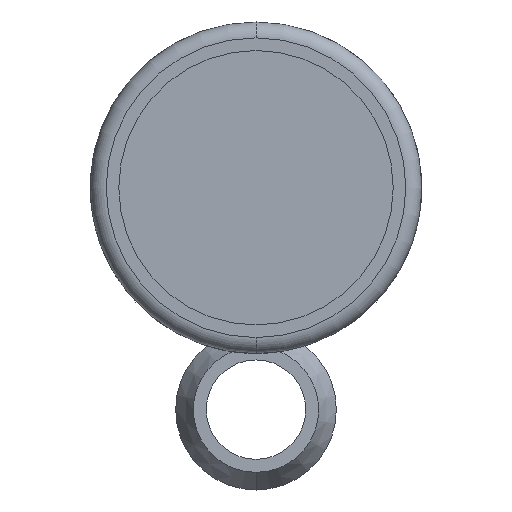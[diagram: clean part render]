
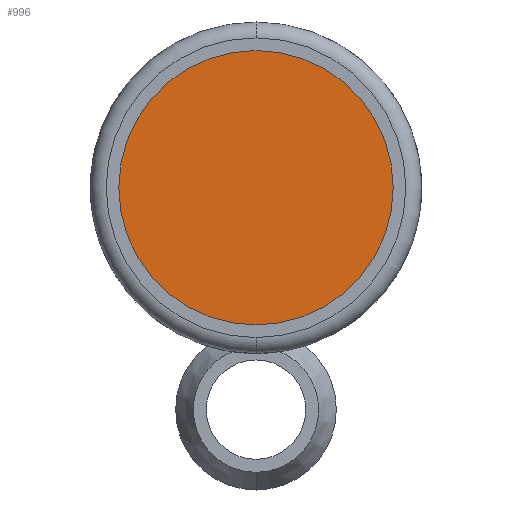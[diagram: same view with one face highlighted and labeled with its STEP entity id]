
A CAD part, front view. The second image highlights one B-rep face of the part: STEP entity #996.
In plain terms, the highlighted planar face has unit normal (0, -1, 0).
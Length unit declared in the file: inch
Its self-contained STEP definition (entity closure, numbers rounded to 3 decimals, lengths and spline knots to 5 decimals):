
#2 = CARTESIAN_POINT ( 'NONE',  ( 0., -0.555, 0.5175 ) ) ;
#21 = CARTESIAN_POINT ( 'NONE',  ( 0., -0.555, -0.5175 ) ) ;
#73 = ORIENTED_EDGE ( 'NONE', *, *, #1445, .T. ) ;
#95 = VERTEX_POINT ( 'NONE', #2 ) ;
#99 = DIRECTION ( 'NONE',  ( 0., 0., -1. ) ) ;
#179 = AXIS2_PLACEMENT_3D ( 'NONE', #327, #346, #99 ) ;
#325 = AXIS2_PLACEMENT_3D ( 'NONE', #1480, #1350, #339 ) ;
#327 = CARTESIAN_POINT ( 'NONE',  ( 0., -0.555, 0. ) ) ;
#339 = DIRECTION ( 'NONE',  ( 0., 0., -1. ) ) ;
#346 = DIRECTION ( 'NONE',  ( 0., -1., 0. ) ) ;
#490 = ORIENTED_EDGE ( 'NONE', *, *, #1128, .T. ) ;
#619 = DIRECTION ( 'NONE',  ( 0., 0., -1. ) ) ;
#730 = PLANE ( 'NONE',  #179 ) ;
#996 = ADVANCED_FACE ( 'NONE', ( #1313 ), #730, .T. ) ;
#1128 = EDGE_CURVE ( 'NONE', #1621, #95, #1608, .T. ) ;
#1146 = CARTESIAN_POINT ( 'NONE',  ( 0., -0.555, 0. ) ) ;
#1313 = FACE_OUTER_BOUND ( 'NONE', #1488, .T. ) ;
#1350 = DIRECTION ( 'NONE',  ( 0., -1., 0. ) ) ;
#1378 = DIRECTION ( 'NONE',  ( 0., -1., 0. ) ) ;
#1445 = EDGE_CURVE ( 'NONE', #95, #1621, #1471, .T. ) ;
#1471 = CIRCLE ( 'NONE', #1580, 0.5175 ) ;
#1480 = CARTESIAN_POINT ( 'NONE',  ( 0., -0.555, 0. ) ) ;
#1488 = EDGE_LOOP ( 'NONE', ( #73, #490 ) ) ;
#1580 = AXIS2_PLACEMENT_3D ( 'NONE', #1146, #1378, #619 ) ;
#1608 = CIRCLE ( 'NONE', #325, 0.5175 ) ;
#1621 = VERTEX_POINT ( 'NONE', #21 ) ;
